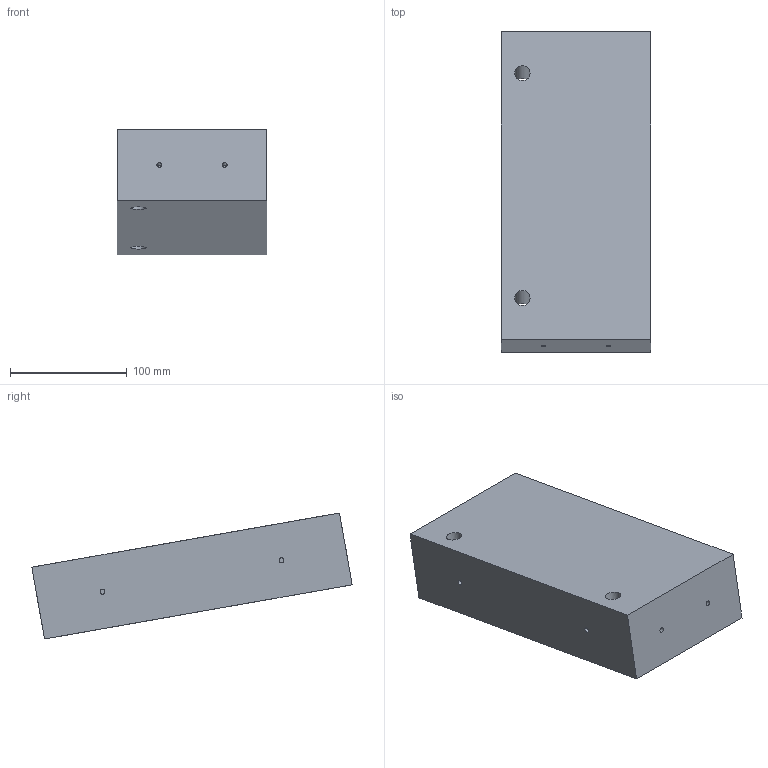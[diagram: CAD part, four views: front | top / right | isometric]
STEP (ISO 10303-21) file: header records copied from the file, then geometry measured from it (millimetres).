
FILE_DESCRIPTION(('golf model'),'2;1');
FILE_NAME('golf','',(''),(''),'golf_step_io','golf','');
FILE_SCHEMA(('AUTOMOTIVE_DESIGN { 1 0 10303 214 1 1 1 1 }'));
Length unit declared in the file: millimetre
Products named in the file (2): ASSEMBLY; counterweight.slab_7
Assembly tree (1 placements, depth 2):
  ASSEMBLY
    counterweight.slab_7
Bounding box: 128 x 274.78 x 108.09 mm (x, y, z)
Volume: 2125382 mm3; surface area: 124223.1 mm2
Topology: 1 solids, 1 shells, 24 faces, 46 edges, 32 vertices
Faces by surface type: plane 14, cylinder 10
Full cylindrical faces by diameter (mm): 4.2 x8, 13.2 x2
Entity records: 578 total; most frequent: DIRECTION 104, CARTESIAN_POINT 86, ORIENTED_EDGE 64, AXIS2_PLACEMENT_3D 46, EDGE_LOOP 46, FACE_BOUND 40, EDGE_CURVE 32, VERTEX_POINT 28
